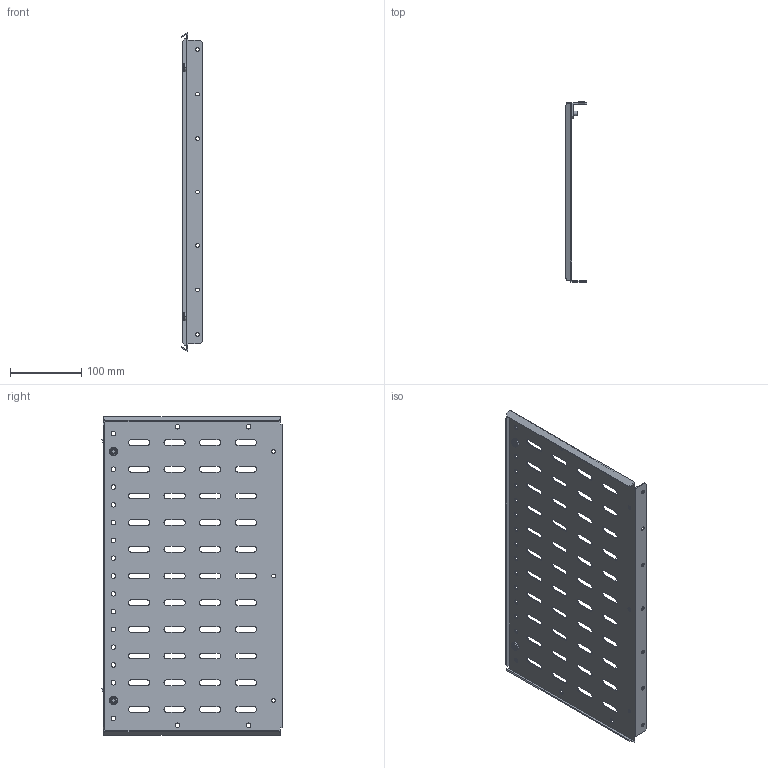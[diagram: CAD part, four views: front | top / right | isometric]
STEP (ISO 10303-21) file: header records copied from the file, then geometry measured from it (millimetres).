
FILE_DESCRIPTION (( 'STEP AP214' ), '1' );
FILE_NAME ('FO-00-SWFB-045 Ïåðåãîðîäêà ñåêöèîíèðîâàíèÿ çàäíÿÿ äëÿ âåðòèêàëüíîãî øèííîãî îòñåêà âûñîòà 450 ìì â øêàô øèðèíîé 600 ìì.STEP', '2025-08-08T11:32:05', ( '' ), ( '' ), 'SwSTEP 2.0', 'SolidWorks 2023', '' );
FILE_SCHEMA (( 'AUTOMOTIVE_DESIGN' ));
Length unit declared in the file: millimetre
Products named in the file (1): FO-00-SWFB-045 Перегородка секционирования задняя для вертикального шинного отсека высота 450 мм в шкаф шириной 600 мм
Bounding box: 30.53 x 253.25 x 447.3 mm (x, y, z)
Volume: 180748.6 mm3; surface area: 247451.5 mm2
Topology: 5 solids, 5 shells, 440 faces, 1262 edges, 836 vertices
Faces by surface type: cylinder 240, plane 184, cone 8, torus 8
Entity records: 14937 total; most frequent: DIRECTION 2648, CARTESIAN_POINT 2539, ORIENTED_EDGE 2524, EDGE_CURVE 1262, AXIS2_PLACEMENT_3D 945, VERTEX_POINT 836, VECTOR 758, LINE 758
